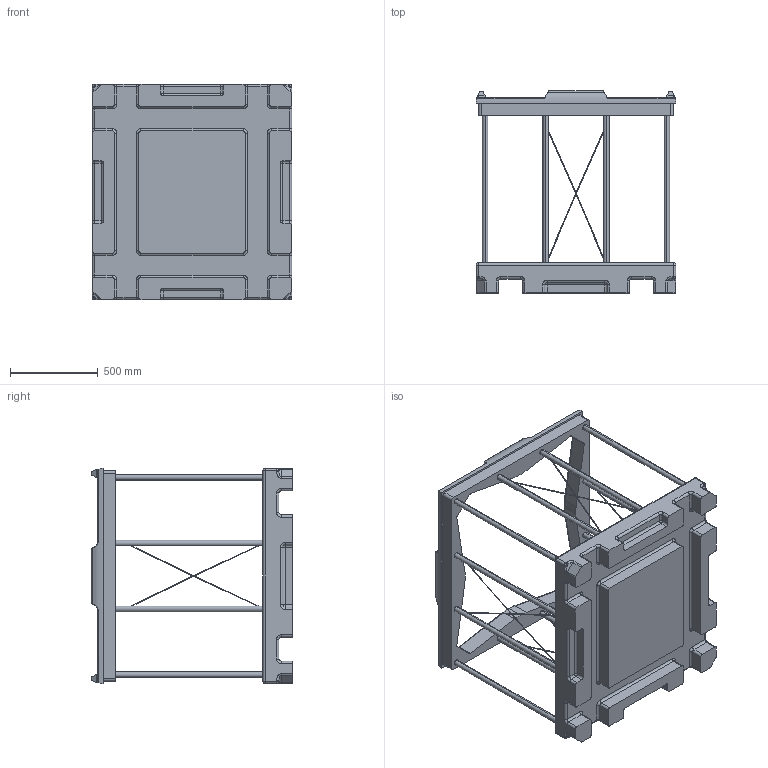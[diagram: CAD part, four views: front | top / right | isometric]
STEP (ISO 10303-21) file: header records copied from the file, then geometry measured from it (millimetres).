
FILE_DESCRIPTION (( 'STEP AP214' ), '1' );
FILE_NAME ('Alpal 48 Block Model.STEP', '2013-06-03T15:22:13', ( 'Bryant Conder' ), ( '' ), 'SwSTEP 2.0', 'SolidWorks 2013', '' );
FILE_SCHEMA (( 'AUTOMOTIVE_DESIGN' ));
Length unit declared in the file: inch
Products named in the file (1): Alpal 48 Block Model
Bounding box: 1136.65 x 1148.85 x 1225.55 mm (x, y, z)
Volume: 148873177 mm3; surface area: 7088200.1 mm2
Topology: 1 solids, 1 shells, 428 faces, 1105 edges, 643 vertices
Faces by surface type: cylinder 241, plane 102, torus 49, bspline 20, sphere 16
Entity records: 14865 total; most frequent: CARTESIAN_POINT 4721, ORIENTED_EDGE 2162, DIRECTION 2139, EDGE_CURVE 1081, AXIS2_PLACEMENT_3D 805, VERTEX_POINT 643, LINE 529, VECTOR 529
